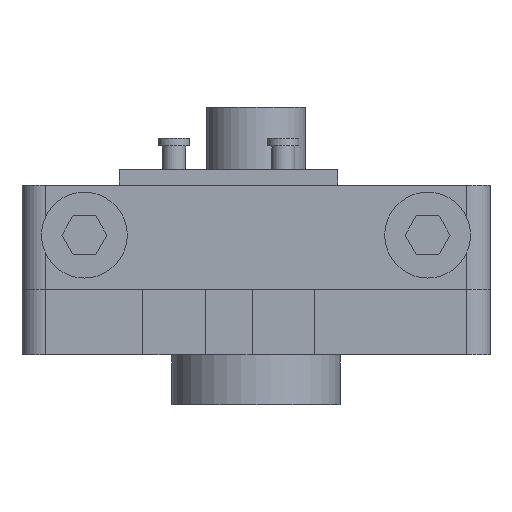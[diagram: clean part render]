
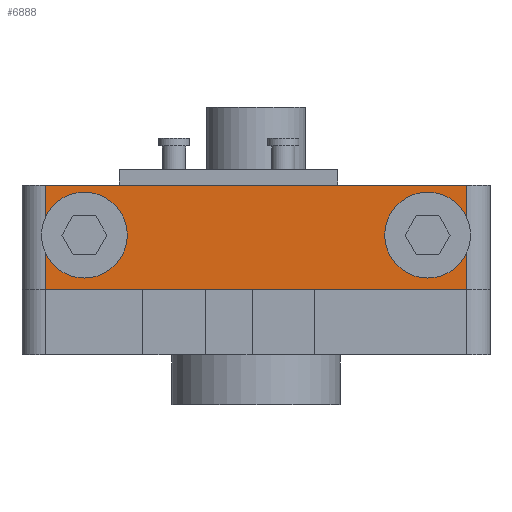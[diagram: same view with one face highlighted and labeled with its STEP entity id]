
A CAD part, front view. The second image highlights one B-rep face of the part: STEP entity #6888.
In plain terms, the highlighted planar face has unit normal (0, -1, 0).
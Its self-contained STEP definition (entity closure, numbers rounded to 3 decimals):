
#4976 = PLANE('',#4977);
#4977 = AXIS2_PLACEMENT_3D('',#4978,#4979,#4980);
#4978 = CARTESIAN_POINT('',(-15.,-21.4,-0.5));
#4979 = DIRECTION('',(0.,0.,1.));
#4980 = DIRECTION('',(1.,0.,0.));
#5004 = CYLINDRICAL_SURFACE('',#5005,1.5);
#5005 = AXIS2_PLACEMENT_3D('',#5006,#5007,#5008);
#5006 = CARTESIAN_POINT('',(-13.5,-19.9,-7.2));
#5007 = DIRECTION('',(0.,0.,1.));
#5008 = DIRECTION('',(-1.,-0.,0.));
#5032 = PLANE('',#5033);
#5033 = AXIS2_PLACEMENT_3D('',#5034,#5035,#5036);
#5034 = CARTESIAN_POINT('',(-15.,-21.4,-7.2));
#5035 = DIRECTION('',(0.,0.,1.));
#5036 = DIRECTION('',(1.,0.,0.));
#5075 = VERTEX_POINT('',#5076);
#5076 = CARTESIAN_POINT('',(-13.5,-21.4,-7.2));
#5098 = EDGE_CURVE('',#5075,#5099,#5101,.T.);
#5099 = VERTEX_POINT('',#5100);
#5100 = CARTESIAN_POINT('',(13.5,-21.4,-7.2));
#5101 = SURFACE_CURVE('',#5102,(#5106,#5113),.PCURVE_S1.);
#5102 = LINE('',#5103,#5104);
#5103 = CARTESIAN_POINT('',(-15.,-21.4,-7.2));
#5104 = VECTOR('',#5105,1.);
#5105 = DIRECTION('',(1.,0.,0.));
#5106 = PCURVE('',#5032,#5107);
#5107 = DEFINITIONAL_REPRESENTATION('',(#5108),#5112);
#5108 = LINE('',#5109,#5110);
#5109 = CARTESIAN_POINT('',(0.,0.));
#5110 = VECTOR('',#5111,1.);
#5111 = DIRECTION('',(1.,0.));
#5112 = ( GEOMETRIC_REPRESENTATION_CONTEXT(2) 
PARAMETRIC_REPRESENTATION_CONTEXT() REPRESENTATION_CONTEXT('2D SPACE',''
  ) );
#5113 = PCURVE('',#5114,#5119);
#5114 = PLANE('',#5115);
#5115 = AXIS2_PLACEMENT_3D('',#5116,#5117,#5118);
#5116 = CARTESIAN_POINT('',(-15.,-21.4,-7.2));
#5117 = DIRECTION('',(0.,1.,0.));
#5118 = DIRECTION('',(0.,0.,1.));
#5119 = DEFINITIONAL_REPRESENTATION('',(#5120),#5124);
#5120 = LINE('',#5121,#5122);
#5121 = CARTESIAN_POINT('',(0.,0.));
#5122 = VECTOR('',#5123,1.);
#5123 = DIRECTION('',(0.,1.));
#5124 = ( GEOMETRIC_REPRESENTATION_CONTEXT(2) 
PARAMETRIC_REPRESENTATION_CONTEXT() REPRESENTATION_CONTEXT('2D SPACE',''
  ) );
#5147 = CYLINDRICAL_SURFACE('',#5148,1.5);
#5148 = AXIS2_PLACEMENT_3D('',#5149,#5150,#5151);
#5149 = CARTESIAN_POINT('',(13.5,-19.9,-7.2));
#5150 = DIRECTION('',(0.,0.,1.));
#5151 = DIRECTION('',(1.,0.,-0.));
#5683 = CYLINDRICAL_SURFACE('',#5684,1.7);
#5684 = AXIS2_PLACEMENT_3D('',#5685,#5686,#5687);
#5685 = CARTESIAN_POINT('',(-11.,-15.67,-3.7));
#5686 = DIRECTION('',(-0.,1.,-0.));
#5687 = DIRECTION('',(1.,0.,0.));
#5700 = VERTEX_POINT('',#5701);
#5701 = CARTESIAN_POINT('',(-9.3,-21.4,-3.7));
#5722 = EDGE_CURVE('',#5700,#5700,#5723,.T.);
#5723 = SURFACE_CURVE('',#5724,(#5729,#5736),.PCURVE_S1.);
#5724 = CIRCLE('',#5725,1.7);
#5725 = AXIS2_PLACEMENT_3D('',#5726,#5727,#5728);
#5726 = CARTESIAN_POINT('',(-11.,-21.4,-3.7));
#5727 = DIRECTION('',(-0.,1.,0.));
#5728 = DIRECTION('',(1.,0.,0.));
#5729 = PCURVE('',#5683,#5730);
#5730 = DEFINITIONAL_REPRESENTATION('',(#5731),#5735);
#5731 = LINE('',#5732,#5733);
#5732 = CARTESIAN_POINT('',(-6.283,-5.73));
#5733 = VECTOR('',#5734,1.);
#5734 = DIRECTION('',(1.,-0.));
#5735 = ( GEOMETRIC_REPRESENTATION_CONTEXT(2) 
PARAMETRIC_REPRESENTATION_CONTEXT() REPRESENTATION_CONTEXT('2D SPACE',''
  ) );
#5736 = PCURVE('',#5114,#5737);
#5737 = DEFINITIONAL_REPRESENTATION('',(#5738),#5742);
#5738 = CIRCLE('',#5739,1.7);
#5739 = AXIS2_PLACEMENT_2D('',#5740,#5741);
#5740 = CARTESIAN_POINT('',(3.5,4.));
#5741 = DIRECTION('',(0.,1.));
#5742 = ( GEOMETRIC_REPRESENTATION_CONTEXT(2) 
PARAMETRIC_REPRESENTATION_CONTEXT() REPRESENTATION_CONTEXT('2D SPACE',''
  ) );
#6674 = CYLINDRICAL_SURFACE('',#6675,1.7);
#6675 = AXIS2_PLACEMENT_3D('',#6676,#6677,#6678);
#6676 = CARTESIAN_POINT('',(11.,-15.67,-3.7));
#6677 = DIRECTION('',(-0.,1.,-0.));
#6678 = DIRECTION('',(1.,0.,0.));
#6691 = VERTEX_POINT('',#6692);
#6692 = CARTESIAN_POINT('',(12.7,-21.4,-3.7));
#6713 = EDGE_CURVE('',#6691,#6691,#6714,.T.);
#6714 = SURFACE_CURVE('',#6715,(#6720,#6727),.PCURVE_S1.);
#6715 = CIRCLE('',#6716,1.7);
#6716 = AXIS2_PLACEMENT_3D('',#6717,#6718,#6719);
#6717 = CARTESIAN_POINT('',(11.,-21.4,-3.7));
#6718 = DIRECTION('',(-0.,1.,0.));
#6719 = DIRECTION('',(1.,0.,0.));
#6720 = PCURVE('',#6674,#6721);
#6721 = DEFINITIONAL_REPRESENTATION('',(#6722),#6726);
#6722 = LINE('',#6723,#6724);
#6723 = CARTESIAN_POINT('',(-6.283,-5.73));
#6724 = VECTOR('',#6725,1.);
#6725 = DIRECTION('',(1.,-0.));
#6726 = ( GEOMETRIC_REPRESENTATION_CONTEXT(2) 
PARAMETRIC_REPRESENTATION_CONTEXT() REPRESENTATION_CONTEXT('2D SPACE',''
  ) );
#6727 = PCURVE('',#5114,#6728);
#6728 = DEFINITIONAL_REPRESENTATION('',(#6729),#6733);
#6729 = CIRCLE('',#6730,1.7);
#6730 = AXIS2_PLACEMENT_2D('',#6731,#6732);
#6731 = CARTESIAN_POINT('',(3.5,26.));
#6732 = DIRECTION('',(0.,1.));
#6733 = ( GEOMETRIC_REPRESENTATION_CONTEXT(2) 
PARAMETRIC_REPRESENTATION_CONTEXT() REPRESENTATION_CONTEXT('2D SPACE',''
  ) );
#6839 = EDGE_CURVE('',#5099,#6840,#6842,.T.);
#6840 = VERTEX_POINT('',#6841);
#6841 = CARTESIAN_POINT('',(13.5,-21.4,-0.5));
#6842 = SURFACE_CURVE('',#6843,(#6847,#6854),.PCURVE_S1.);
#6843 = LINE('',#6844,#6845);
#6844 = CARTESIAN_POINT('',(13.5,-21.4,-7.2));
#6845 = VECTOR('',#6846,1.);
#6846 = DIRECTION('',(0.,0.,1.));
#6847 = PCURVE('',#5147,#6848);
#6848 = DEFINITIONAL_REPRESENTATION('',(#6849),#6853);
#6849 = LINE('',#6850,#6851);
#6850 = CARTESIAN_POINT('',(-1.571,0.));
#6851 = VECTOR('',#6852,1.);
#6852 = DIRECTION('',(-0.,1.));
#6853 = ( GEOMETRIC_REPRESENTATION_CONTEXT(2) 
PARAMETRIC_REPRESENTATION_CONTEXT() REPRESENTATION_CONTEXT('2D SPACE',''
  ) );
#6854 = PCURVE('',#5114,#6855);
#6855 = DEFINITIONAL_REPRESENTATION('',(#6856),#6860);
#6856 = LINE('',#6857,#6858);
#6857 = CARTESIAN_POINT('',(0.,28.5));
#6858 = VECTOR('',#6859,1.);
#6859 = DIRECTION('',(1.,0.));
#6860 = ( GEOMETRIC_REPRESENTATION_CONTEXT(2) 
PARAMETRIC_REPRESENTATION_CONTEXT() REPRESENTATION_CONTEXT('2D SPACE',''
  ) );
#6888 = ADVANCED_FACE('',(#6889,#6937,#6940),#5114,.F.);
#6889 = FACE_BOUND('',#6890,.F.);
#6890 = EDGE_LOOP('',(#6891,#6892,#6915,#6936));
#6891 = ORIENTED_EDGE('',*,*,#5098,.F.);
#6892 = ORIENTED_EDGE('',*,*,#6893,.T.);
#6893 = EDGE_CURVE('',#5075,#6894,#6896,.T.);
#6894 = VERTEX_POINT('',#6895);
#6895 = CARTESIAN_POINT('',(-13.5,-21.4,-0.5));
#6896 = SURFACE_CURVE('',#6897,(#6901,#6908),.PCURVE_S1.);
#6897 = LINE('',#6898,#6899);
#6898 = CARTESIAN_POINT('',(-13.5,-21.4,-7.2));
#6899 = VECTOR('',#6900,1.);
#6900 = DIRECTION('',(0.,0.,1.));
#6901 = PCURVE('',#5114,#6902);
#6902 = DEFINITIONAL_REPRESENTATION('',(#6903),#6907);
#6903 = LINE('',#6904,#6905);
#6904 = CARTESIAN_POINT('',(0.,1.5));
#6905 = VECTOR('',#6906,1.);
#6906 = DIRECTION('',(1.,0.));
#6907 = ( GEOMETRIC_REPRESENTATION_CONTEXT(2) 
PARAMETRIC_REPRESENTATION_CONTEXT() REPRESENTATION_CONTEXT('2D SPACE',''
  ) );
#6908 = PCURVE('',#5004,#6909);
#6909 = DEFINITIONAL_REPRESENTATION('',(#6910),#6914);
#6910 = LINE('',#6911,#6912);
#6911 = CARTESIAN_POINT('',(1.571,0.));
#6912 = VECTOR('',#6913,1.);
#6913 = DIRECTION('',(0.,1.));
#6914 = ( GEOMETRIC_REPRESENTATION_CONTEXT(2) 
PARAMETRIC_REPRESENTATION_CONTEXT() REPRESENTATION_CONTEXT('2D SPACE',''
  ) );
#6915 = ORIENTED_EDGE('',*,*,#6916,.T.);
#6916 = EDGE_CURVE('',#6894,#6840,#6917,.T.);
#6917 = SURFACE_CURVE('',#6918,(#6922,#6929),.PCURVE_S1.);
#6918 = LINE('',#6919,#6920);
#6919 = CARTESIAN_POINT('',(-15.,-21.4,-0.5));
#6920 = VECTOR('',#6921,1.);
#6921 = DIRECTION('',(1.,0.,0.));
#6922 = PCURVE('',#5114,#6923);
#6923 = DEFINITIONAL_REPRESENTATION('',(#6924),#6928);
#6924 = LINE('',#6925,#6926);
#6925 = CARTESIAN_POINT('',(6.7,0.));
#6926 = VECTOR('',#6927,1.);
#6927 = DIRECTION('',(0.,1.));
#6928 = ( GEOMETRIC_REPRESENTATION_CONTEXT(2) 
PARAMETRIC_REPRESENTATION_CONTEXT() REPRESENTATION_CONTEXT('2D SPACE',''
  ) );
#6929 = PCURVE('',#4976,#6930);
#6930 = DEFINITIONAL_REPRESENTATION('',(#6931),#6935);
#6931 = LINE('',#6932,#6933);
#6932 = CARTESIAN_POINT('',(0.,0.));
#6933 = VECTOR('',#6934,1.);
#6934 = DIRECTION('',(1.,0.));
#6935 = ( GEOMETRIC_REPRESENTATION_CONTEXT(2) 
PARAMETRIC_REPRESENTATION_CONTEXT() REPRESENTATION_CONTEXT('2D SPACE',''
  ) );
#6936 = ORIENTED_EDGE('',*,*,#6839,.F.);
#6937 = FACE_BOUND('',#6938,.F.);
#6938 = EDGE_LOOP('',(#6939));
#6939 = ORIENTED_EDGE('',*,*,#5722,.F.);
#6940 = FACE_BOUND('',#6941,.F.);
#6941 = EDGE_LOOP('',(#6942));
#6942 = ORIENTED_EDGE('',*,*,#6713,.F.);
